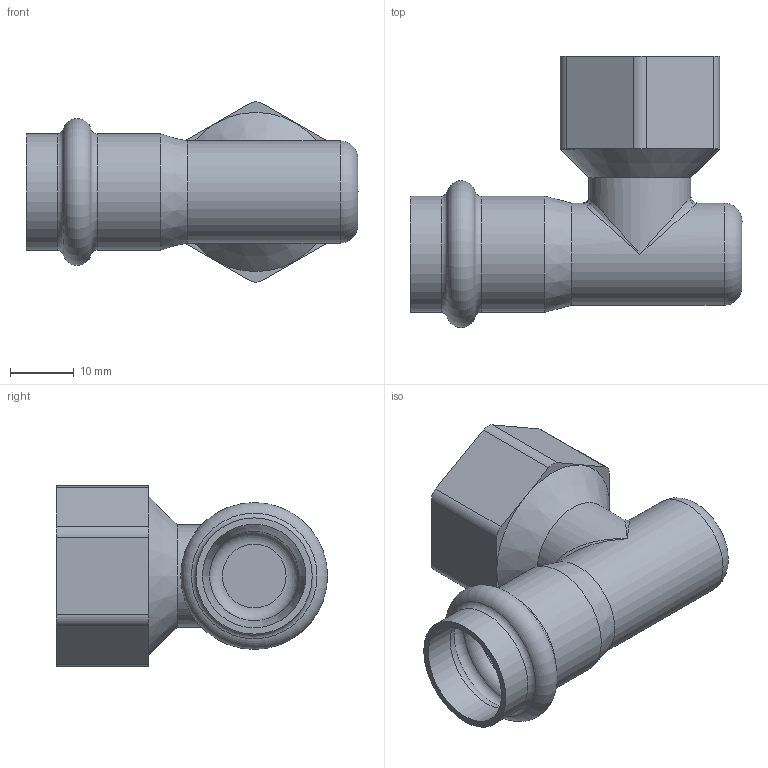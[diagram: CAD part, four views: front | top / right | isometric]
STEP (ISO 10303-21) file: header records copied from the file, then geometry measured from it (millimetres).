
FILE_DESCRIPTION(/* description */ (''),/* implementation_level */ '2;1');
FILE_NAME(/* name */ '51269000001.stp',/* time_stamp */ '2020-06-22T14:54:20+08:00',/* author */ (''),/* organization */ (''),/* preprocessor_version */ 'ST-DEVELOPER v11',/* originating_system */ 'SIEMENS PLM Software NX 7.5',/* authorisation */ '');
FILE_SCHEMA (('CONFIG_CONTROL_DESIGN'));
Length unit declared in the file: millimetre
Products named in the file (1): Admi4F60b49b
Bounding box: 52 x 42.47 x 28.25 mm (x, y, z)
Volume: 7523.9 mm3; surface area: 9129.8 mm2
Topology: 1 solids, 1 shells, 43 faces, 99 edges, 57 vertices
Faces by surface type: cylinder 15, plane 13, torus 8, cone 5, bspline 2
Full cylindrical faces by diameter (mm): 14 x1, 14.4 x1, 16 x2, 16.2 x2, 18.2 x2, 18.6 x1
Entity records: 1268 total; most frequent: CARTESIAN_POINT 316, DIRECTION 194, ORIENTED_EDGE 140, AXIS2_PLACEMENT_3D 84, EDGE_LOOP 70, EDGE_CURVE 70, VERTEX_POINT 54, FACE_BOUND 52
